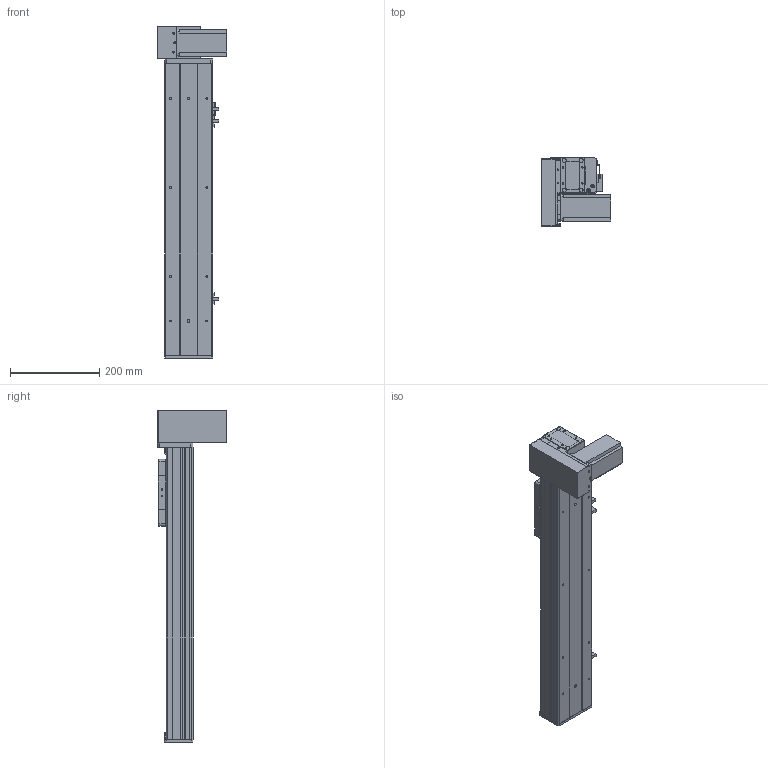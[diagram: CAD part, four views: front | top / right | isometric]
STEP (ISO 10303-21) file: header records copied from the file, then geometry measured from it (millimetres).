
FILE_DESCRIPTION (( 'STEP AP203' ), '1' );
FILE_NAME ('Y10CB-D90-S400-BM-P400W.STEP', '2020-02-16T08:46:50', ( '微软用户' ), ( '微软中国' ), 'SwSTEP 2.0', 'SolidWorks 2017', '' );
FILE_SCHEMA (( 'CONFIG_CONTROL_DESIGN' ));
Length unit declared in the file: millimetre
Products named in the file (18): Y10B-々湍喘謫眊楊擘啣--; 10CB-耜裔; 0B-萇儂楊擘啣; Y135C-陔俋离換覜結え-; Y100-135俋离換覜ん--; san松下电机400不带刹车----; Y10B--々湍喘謫眊--666; 0B-源倛裔啣; 00B-俋欶BM--; 0B-埴倛裔啣; Y10B-耜蚾蟀諉啣----; 10CB-詩湍-; Y10CB-D90-S400-BM-P400W; Y10CB- 掛极耜裔啣-毀---; 0CB-雄赽釱---; Y10C---詩湍揤啣; 0Cb-俋欶---; 10CB9-掛极
Assembly tree (21 placements, depth 2):
  Y10CB-D90-S400-BM-P400W
    0CB-雄赽釱---
    0Cb-俋欶---
    Y10B-々湍喘謫眊楊擘啣--
    0B-萇儂楊擘啣
    san松下电机400不带刹车----
    0B-源倛裔啣
    0B-埴倛裔啣
    10CB-詩湍-
    Y10CB- 掛极耜裔啣-毀---  x2
    Y10C---詩湍揤啣  x2
    10CB9-掛极
    10CB-耜裔
    Y135C-陔俋离換覜結え-
    Y100-135俋离換覜ん--  x3
    Y10B--々湍喘謫眊--666
    00B-俋欶BM--
    Y10B-耜蚾蟀諉啣----
Bounding box: 157 x 156 x 746 mm (x, y, z)
Volume: 2088885.9 mm3; surface area: 883343.1 mm2
Topology: 21 solids, 21 shells, 954 faces, 2523 edges, 1658 vertices
Faces by surface type: plane 471, cylinder 459, cone 24
Entity records: 29412 total; most frequent: CARTESIAN_POINT 5025, DIRECTION 4794, ORIENTED_EDGE 4516, EDGE_CURVE 2258, AXIS2_PLACEMENT_3D 1717, VERTEX_POINT 1484, LINE 1360, VECTOR 1360
